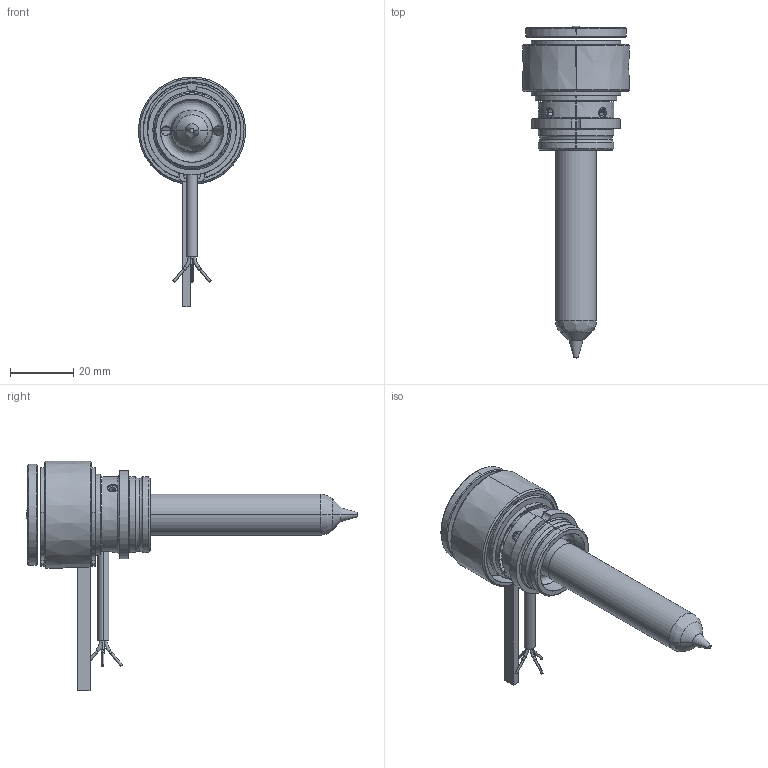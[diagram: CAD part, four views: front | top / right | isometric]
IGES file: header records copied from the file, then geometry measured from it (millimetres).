
Start section: SolidWorks IGES file using analytic representation for surfaces
Global section: file name: C:\Documents and Settings\ws-20\Desktop\TEM\UGGS2540-S-1 [Øf-1.30].IGS; native system: SolidWorks 2012; preprocessor: SolidWorks 2012; author: ws-20; date: 120516.093525; units: millimetre
Bounding box: 34 x 105.3 x 72.9 mm (x, y, z)
Surface area: 16680 mm2 (no closed solid volume)
Topology: 0 solids, 0 shells, 204 faces, 2947 edges, 2941 vertices
Faces by surface type: revolution 127, bspline 77
